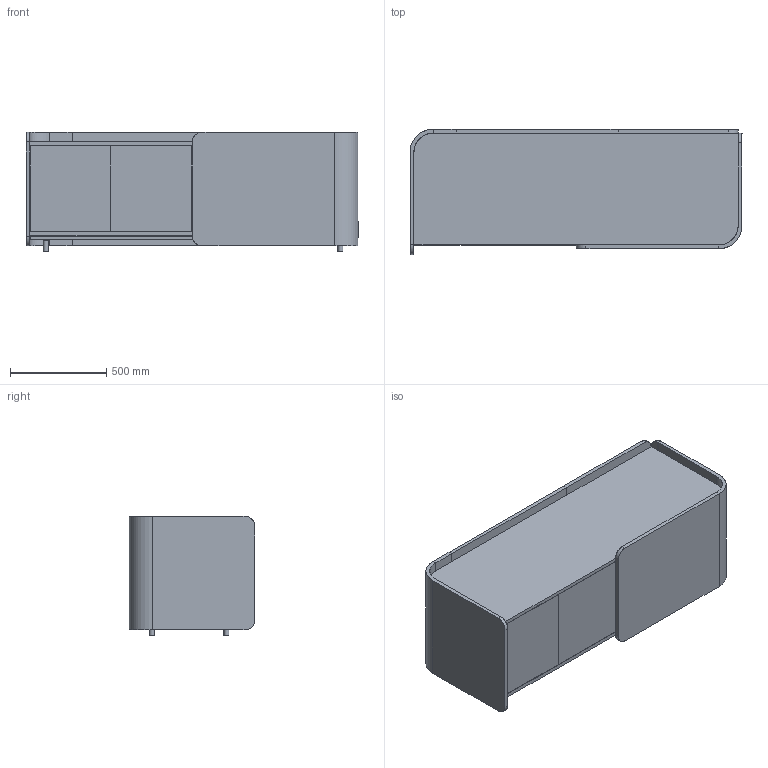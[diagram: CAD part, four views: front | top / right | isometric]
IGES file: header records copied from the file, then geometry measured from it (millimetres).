
Global section: file name: /Volumes/SERVER1/NUOVO/AZIENDE ITALIA/QUINTI/2025/DRESSCAB/math/DRESSCAB3.igs; native system: Rhinoceros ( Nov 21 2023 ); preprocessor: Trout Lake IGES 012 Nov 21 2023; date: 250430.114603; units: millimetre
Bounding box: 1724.46 x 650.7 x 620.21 mm (x, y, z)
Surface area: 13362683.6 mm2 (no closed solid volume)
Topology: 0 solids, 0 shells, 138 faces, 1039 edges, 1039 vertices
Faces by surface type: bspline 138
